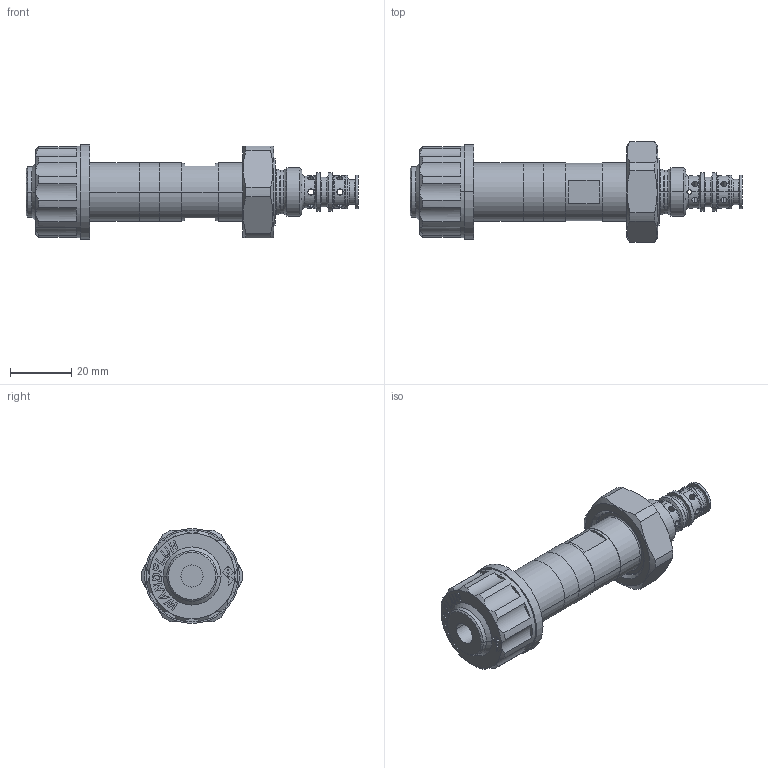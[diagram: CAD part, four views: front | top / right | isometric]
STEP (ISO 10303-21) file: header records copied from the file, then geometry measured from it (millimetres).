
FILE_DESCRIPTION (( 'STEP AP214' ), '1' );
FILE_NAME ('MGPPM16.STEP', '2014-03-19T09:33:46', ( '' ), ( '' ), 'SwSTEP 2.0', 'SolidWorks 2012', '' );
FILE_SCHEMA (( 'AUTOMOTIVE_DESIGN' ));
Length unit declared in the file: millimetre
Products named in the file (1): MGPPM16
Bounding box: 108.6 x 32.98 x 31 mm (x, y, z)
Volume: 34928.2 mm3; surface area: 17127.5 mm2
Topology: 5 solids, 5 shells, 416 faces, 982 edges, 603 vertices
Faces by surface type: plane 161, cylinder 125, cone 68, torus 46, bspline 16
Entity records: 18037 total; most frequent: CARTESIAN_POINT 3830, DIRECTION 2007, ORIENTED_EDGE 1964, EDGE_CURVE 982, AXIS2_PLACEMENT_3D 754, VERTEX_POINT 603, LINE 499, VECTOR 499
